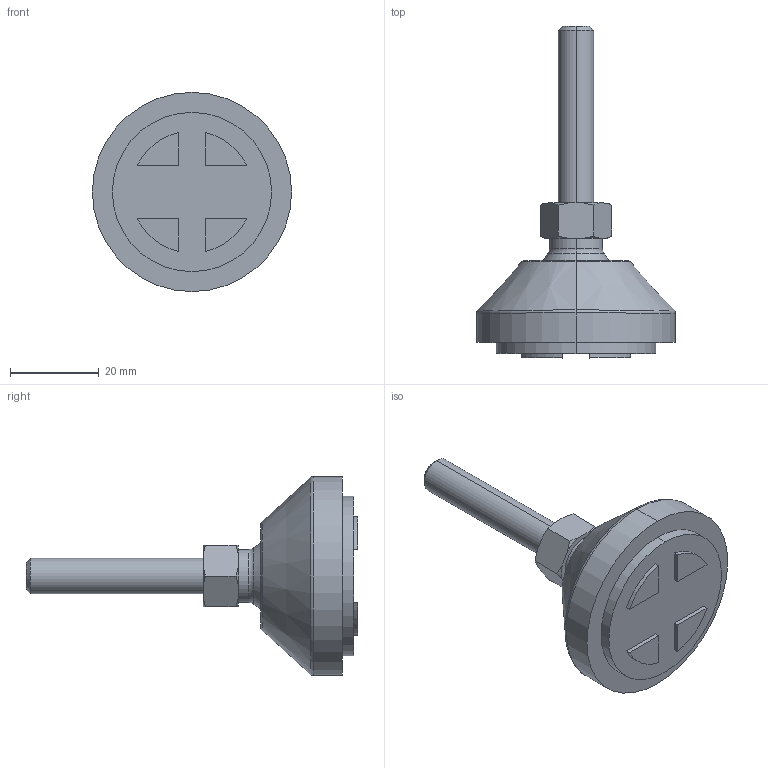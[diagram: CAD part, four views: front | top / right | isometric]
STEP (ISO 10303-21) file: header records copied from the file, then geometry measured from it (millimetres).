
FILE_DESCRIPTION (( 'STEP AP214' ), '1' );
FILE_NAME ('1.5019 S鳵t鐱alka D45 M8.STEP', '2025-09-17T08:17:37', ( '' ), ( '' ), 'SwSTEP 2.0', 'SolidWorks 2025', '' );
FILE_SCHEMA (( 'AUTOMOTIVE_DESIGN' ));
Length unit declared in the file: millimetre
Products named in the file (1): 1.5019 Säätöjalka D45 M8
Bounding box: 45 x 75 x 45 mm (x, y, z)
Volume: 28905 mm3; surface area: 6841.9 mm2
Topology: 1 solids, 1 shells, 65 faces, 148 edges, 94 vertices
Faces by surface type: plane 25, cone 18, cylinder 16, torus 6
Entity records: 2547 total; most frequent: CARTESIAN_POINT 412, DIRECTION 316, ORIENTED_EDGE 296, EDGE_CURVE 148, AXIS2_PLACEMENT_3D 126, VERTEX_POINT 94, EDGE_LOOP 74, ADVANCED_FACE 65
